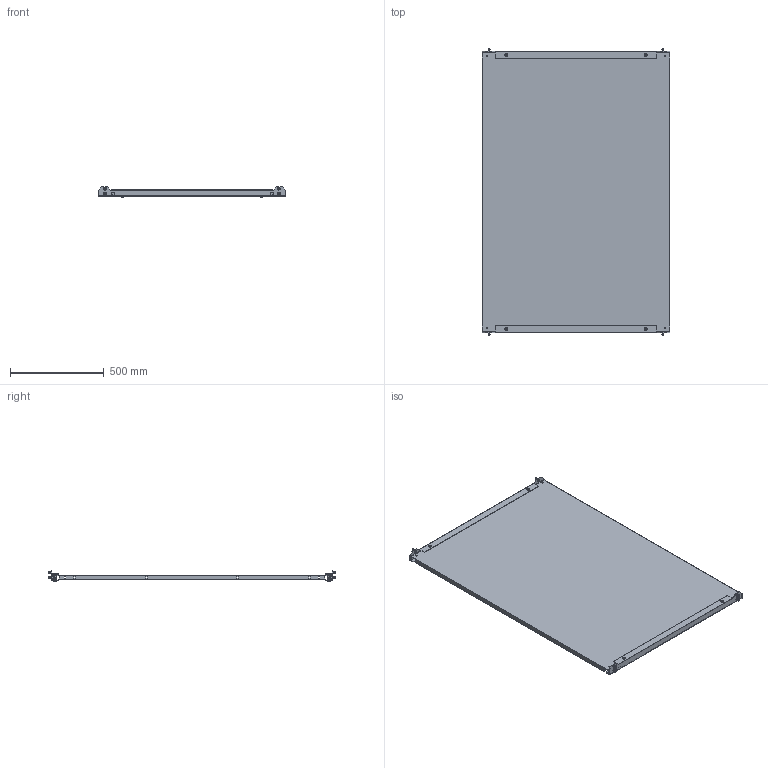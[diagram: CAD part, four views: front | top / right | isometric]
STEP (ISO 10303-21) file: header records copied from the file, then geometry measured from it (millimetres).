
FILE_DESCRIPTION(('Open CASCADE Model'),'2;1');
FILE_NAME('Open CASCADE Shape Model','2025-02-13T16:49:55',('Author'),( 'Open CASCADE'),'Open CASCADE STEP processor 7.8','Open CASCADE 7.8' ,'Unknown');
FILE_SCHEMA(('AUTOMOTIVE_DESIGN { 1 0 10303 214 1 1 1 1 }'));
Length unit declared in the file: millimetre
Products named in the file (11): Compound1; Solid1; Compound2; Solid2; Solid3; Solid4; Solid5; Solid6; Solid7; Solid8; Solid9
Assembly tree (38 placements, depth 3):
  Compound1
    Solid1
    Compound2  x2
      Solid2
      Solid3
    Solid4  x4
    Solid5  x4
    Solid6  x4
    Solid7  x4
    Solid8  x8
    Solid9  x8
Bounding box: 1000 x 1526 x 55.3 mm (x, y, z)
Volume: 4673534 mm3; surface area: 3773546.8 mm2
Topology: 39 solids, 39 shells, 2692 faces, 7206 edges, 4528 vertices
Faces by surface type: plane 1298, cylinder 730, bspline 304, cone 228, torus 128, sphere 4
Full cylindrical faces by diameter (mm): 5 x12, 6 x16, 6.5 x8, 6.8 x32, 8 x4, 8.3 x8, 8.4 x4, 9.5 x8, 10.1 x4, 10.44 x4, 10.5 x4, 11.57 x8, 12 x4, 12.65 x4, 16 x12, 16.55 x4
Entity records: 23066 total; most frequent: CARTESIAN_POINT 6118, ORIENTED_EDGE 3604, DIRECTION 3274, EDGE_CURVE 1802, VERTEX_POINT 1154, LINE 1150, VECTOR 1150, AXIS2_PLACEMENT_3D 1062
